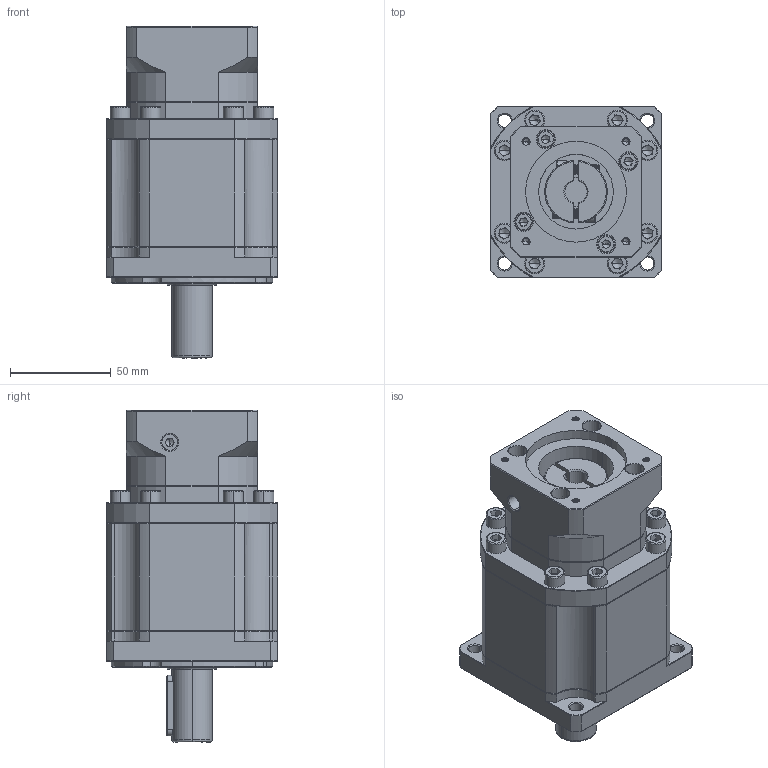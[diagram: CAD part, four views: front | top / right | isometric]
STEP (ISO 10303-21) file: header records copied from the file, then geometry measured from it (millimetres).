
FILE_DESCRIPTION (( 'STEP AP214' ), '1' );
FILE_NAME ('ZB90-D20-L3-11-50-70-M4.STEP', '2022-05-02T15:15:06', ( '' ), ( 'Microsoft' ), 'SwSTEP 2.0', 'SolidWorks 2016', '' );
FILE_SCHEMA (( 'AUTOMOTIVE_DESIGN' ));
Length unit declared in the file: millimetre
Products named in the file (1): ZB90-D20-L3-11-50-70-M4
Bounding box: 85 x 85 x 164.5 mm (x, y, z)
Volume: 664674.5 mm3; surface area: 82174.9 mm2
Topology: 6 solids, 6 shells, 2071 faces, 5428 edges, 3448 vertices
Faces by surface type: plane 1005, cylinder 394, bspline 328, cone 322, torus 22
Entity records: 107149 total; most frequent: CARTESIAN_POINT 36025, ORIENTED_EDGE 10764, DIRECTION 8906, EDGE_CURVE 5382, VERTEX_POINT 3448, LINE 3302, VECTOR 3302, AXIS2_PLACEMENT_3D 2802
